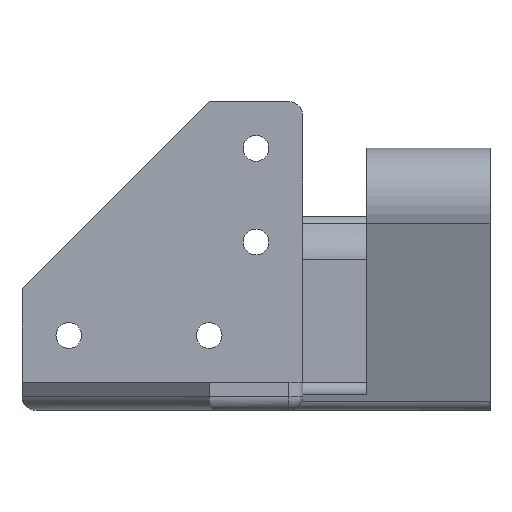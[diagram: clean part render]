
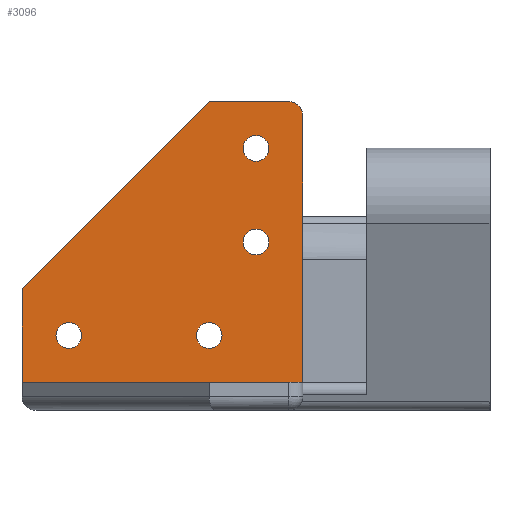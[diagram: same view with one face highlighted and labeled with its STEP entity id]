
A CAD part, left-side view. The second image highlights one B-rep face of the part: STEP entity #3096.
In plain terms, the highlighted planar face has unit normal (-1, 0, 0) as drawn and (0, 0, -1) by its records, which use the part's own axes.
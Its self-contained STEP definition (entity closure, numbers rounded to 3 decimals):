
#84=FACE_BOUND('',#659,.T.);
#85=FACE_BOUND('',#660,.T.);
#86=FACE_BOUND('',#661,.T.);
#87=FACE_BOUND('',#662,.T.);
#308=PLANE('',#3258);
#457=FACE_OUTER_BOUND('',#658,.T.);
#658=EDGE_LOOP('',(#2701,#2702,#2703,#2704,#2705,#2706,#2707));
#659=EDGE_LOOP('',(#2708));
#660=EDGE_LOOP('',(#2709));
#661=EDGE_LOOP('',(#2710));
#662=EDGE_LOOP('',(#2711));
#918=LINE('',#7367,#1174);
#919=LINE('',#7371,#1175);
#920=LINE('',#7373,#1176);
#921=LINE('',#7375,#1177);
#922=LINE('',#7377,#1178);
#923=LINE('',#7378,#1179);
#1174=VECTOR('',#3748,10.);
#1175=VECTOR('',#3751,10.);
#1176=VECTOR('',#3752,10.);
#1177=VECTOR('',#3753,10.);
#1178=VECTOR('',#3754,10.);
#1179=VECTOR('',#3755,10.);
#1263=CIRCLE('',#3259,3.);
#1264=CIRCLE('',#3260,2.75);
#1265=CIRCLE('',#3261,2.75);
#1266=CIRCLE('',#3262,2.75);
#1267=CIRCLE('',#3263,2.75);
#1535=VERTEX_POINT('',#7362);
#1536=VERTEX_POINT('',#7366);
#1537=VERTEX_POINT('',#7368);
#1538=VERTEX_POINT('',#7370);
#1539=VERTEX_POINT('',#7372);
#1540=VERTEX_POINT('',#7374);
#1541=VERTEX_POINT('',#7376);
#1542=VERTEX_POINT('',#7379);
#1543=VERTEX_POINT('',#7381);
#1544=VERTEX_POINT('',#7383);
#1545=VERTEX_POINT('',#7385);
#1938=EDGE_CURVE('',#1535,#1536,#918,.T.);
#1939=EDGE_CURVE('',#1537,#1536,#1263,.T.);
#1940=EDGE_CURVE('',#1537,#1538,#919,.T.);
#1941=EDGE_CURVE('',#1539,#1538,#920,.T.);
#1942=EDGE_CURVE('',#1540,#1539,#921,.T.);
#1943=EDGE_CURVE('',#1541,#1540,#922,.T.);
#1944=EDGE_CURVE('',#1541,#1535,#923,.T.);
#1945=EDGE_CURVE('',#1542,#1542,#1264,.T.);
#1946=EDGE_CURVE('',#1543,#1543,#1265,.T.);
#1947=EDGE_CURVE('',#1544,#1544,#1266,.T.);
#1948=EDGE_CURVE('',#1545,#1545,#1267,.T.);
#2701=ORIENTED_EDGE('',*,*,#1938,.T.);
#2702=ORIENTED_EDGE('',*,*,#1939,.F.);
#2703=ORIENTED_EDGE('',*,*,#1940,.T.);
#2704=ORIENTED_EDGE('',*,*,#1941,.F.);
#2705=ORIENTED_EDGE('',*,*,#1942,.F.);
#2706=ORIENTED_EDGE('',*,*,#1943,.F.);
#2707=ORIENTED_EDGE('',*,*,#1944,.T.);
#2708=ORIENTED_EDGE('',*,*,#1945,.T.);
#2709=ORIENTED_EDGE('',*,*,#1946,.T.);
#2710=ORIENTED_EDGE('',*,*,#1947,.T.);
#2711=ORIENTED_EDGE('',*,*,#1948,.T.);
#3096=ADVANCED_FACE('',(#457,#84,#85,#86,#87),#308,.T.);
#3258=AXIS2_PLACEMENT_3D('',#7365,#3746,#3747);
#3259=AXIS2_PLACEMENT_3D('',#7369,#3749,#3750);
#3260=AXIS2_PLACEMENT_3D('',#7380,#3756,#3757);
#3261=AXIS2_PLACEMENT_3D('',#7382,#3758,#3759);
#3262=AXIS2_PLACEMENT_3D('',#7384,#3760,#3761);
#3263=AXIS2_PLACEMENT_3D('',#7386,#3762,#3763);
#3746=DIRECTION('center_axis',(0.,0.,-1.));
#3747=DIRECTION('ref_axis',(-1.,0.,0.));
#3748=DIRECTION('',(-1.,0.,0.));
#3749=DIRECTION('center_axis',(0.,0.,1.));
#3750=DIRECTION('ref_axis',(-0.707,-0.707,0.));
#3751=DIRECTION('',(0.,1.,0.));
#3752=DIRECTION('',(-0.707,-0.707,0.));
#3753=DIRECTION('',(-1.,0.,0.));
#3754=DIRECTION('',(0.,1.,0.));
#3755=DIRECTION('',(-1.,0.,0.));
#3756=DIRECTION('center_axis',(0.,0.,1.));
#3757=DIRECTION('ref_axis',(1.,0.,0.));
#3758=DIRECTION('center_axis',(0.,0.,1.));
#3759=DIRECTION('ref_axis',(1.,0.,0.));
#3760=DIRECTION('center_axis',(0.,0.,1.));
#3761=DIRECTION('ref_axis',(1.,0.,0.));
#3762=DIRECTION('center_axis',(0.,0.,1.));
#3763=DIRECTION('ref_axis',(1.,0.,0.));
#7362=CARTESIAN_POINT('',(-24.,0.,10.));
#7365=CARTESIAN_POINT('Origin',(10.,0.,10.));
#7366=CARTESIAN_POINT('',(-47.,0.,10.));
#7367=CARTESIAN_POINT('',(10.,0.,10.));
#7368=CARTESIAN_POINT('',(-50.,3.,10.));
#7369=CARTESIAN_POINT('Origin',(-47.,3.,10.));
#7370=CARTESIAN_POINT('',(-50.,20.,10.));
#7371=CARTESIAN_POINT('',(-50.,0.,10.));
#7372=CARTESIAN_POINT('',(-10.,60.,10.));
#7373=CARTESIAN_POINT('',(-30.,40.,10.));
#7374=CARTESIAN_POINT('',(10.,60.,10.));
#7375=CARTESIAN_POINT('',(10.,60.,10.));
#7376=CARTESIAN_POINT('',(10.,0.,10.));
#7377=CARTESIAN_POINT('',(10.,0.,10.));
#7378=CARTESIAN_POINT('',(10.,0.,10.));
#7379=CARTESIAN_POINT('',(-42.75,10.,10.));
#7380=CARTESIAN_POINT('Origin',(-40.,10.,10.));
#7381=CARTESIAN_POINT('',(-2.75,50.,10.));
#7382=CARTESIAN_POINT('Origin',(0.,50.,10.));
#7383=CARTESIAN_POINT('',(-22.75,10.,10.));
#7384=CARTESIAN_POINT('Origin',(-20.,10.,10.));
#7385=CARTESIAN_POINT('',(-2.75,20.,10.));
#7386=CARTESIAN_POINT('Origin',(0.,20.,10.));
